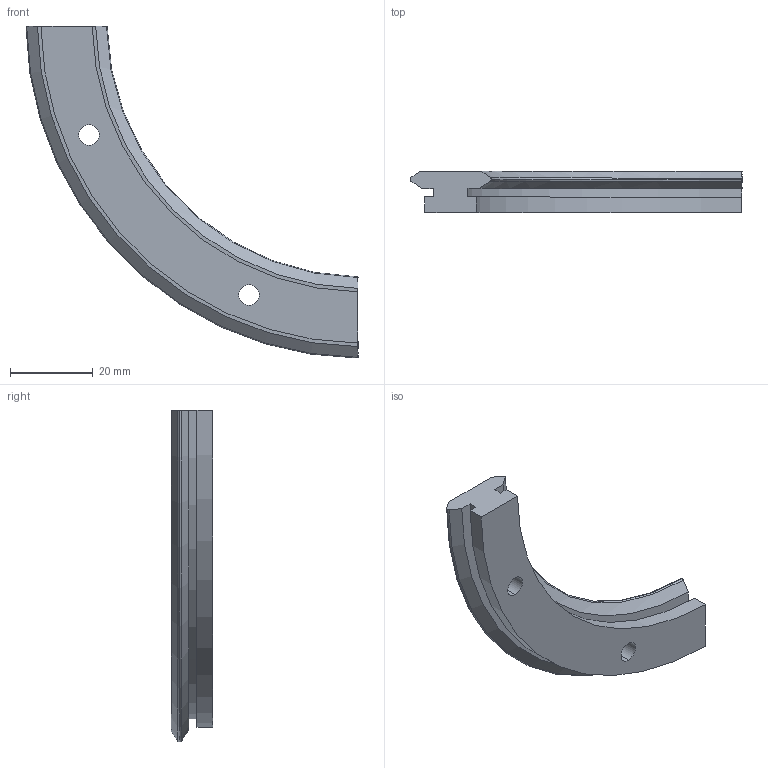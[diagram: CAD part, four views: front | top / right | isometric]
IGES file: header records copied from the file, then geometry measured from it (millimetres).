
Start section: 3D InterOp IGES (v. 2020 1.0.1), Spatial Corp. Copyright (c) 1999-2017.
Global section: file name: r20_143_r90.igs; native system: Spatial Corp.; preprocessor: 3D InterOp ACIS/IGES; author: TraceParts; organization: TraceParts S.A.; date: 20220624.023811; units: millimetre
Bounding box: 80.31 x 10 x 80.31 mm (x, y, z)
Surface area: 7419.9 mm2 (no closed solid volume)
Topology: 0 solids, 0 shells, 30 faces, 156 edges, 156 vertices
Faces by surface type: revolution 20, extrusion 10
